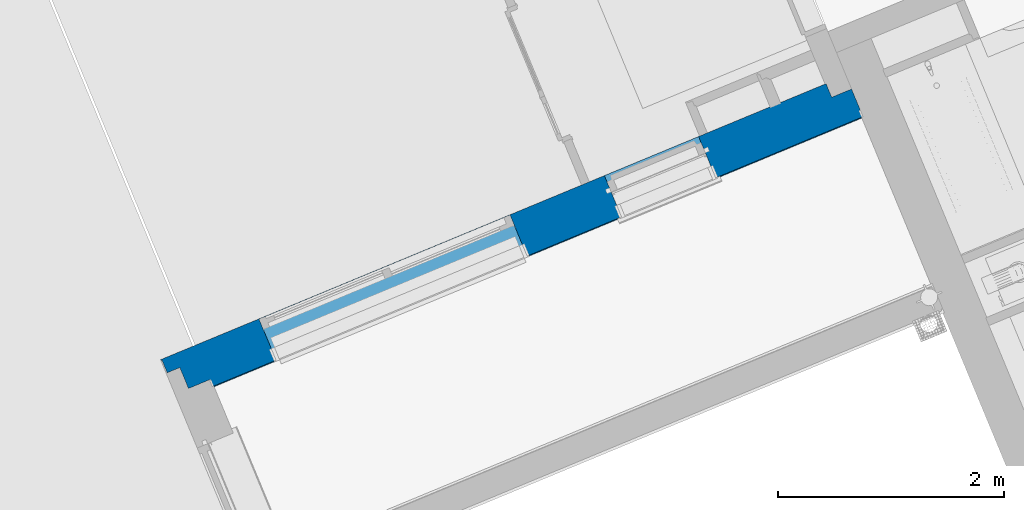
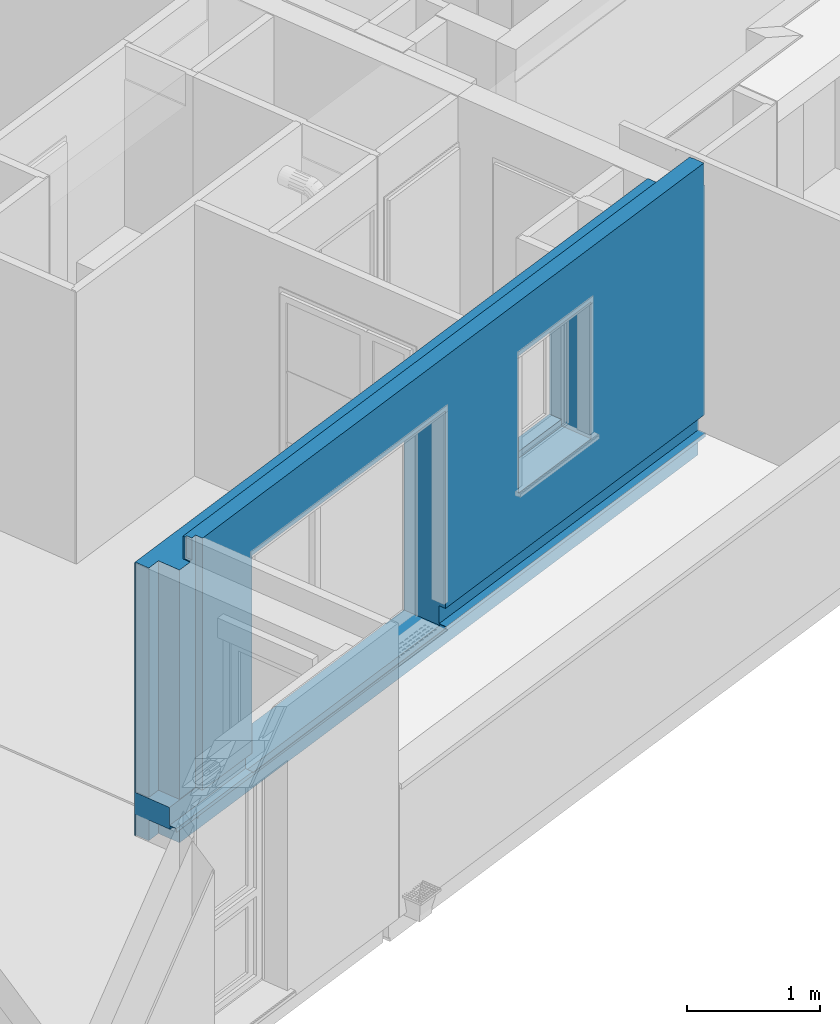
# One storey, part 34 of 91: 1 wall, 2 openings.
"""IFC2X3 building model written with IfcOpenShell, lengths in metres."""

from ifc_helpers import new_model, entity, si_unit, converted_unit, derived_unit, money_unit, direction, frame, origin_with_axes, place, context, subcontext, project, spatial, faceted_brep, material, material_list, type_object, element, save


model = new_model("IFC2X3")

# Units and contexts
model_context = context("Model", 3, precision=1e-05, world=origin_with_axes(), true_north=direction((0.0, 1.0)))
body_context = subcontext(model_context, "Body", "Model", "MODEL_VIEW")
ifc_project = project(units=[si_unit("LENGTHUNIT", "METRE"), si_unit("AREAUNIT", "SQUARE_METRE"), si_unit("VOLUMEUNIT", "CUBIC_METRE"), converted_unit("PLANEANGLEUNIT", "DEGREE", entity("IfcPlaneAngleMeasure", 0.0174532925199), si_unit("PLANEANGLEUNIT", "RADIAN"), dimensions=[0, 0, 0, 0, 0, 0, 0]), si_unit("SOLIDANGLEUNIT", "STERADIAN"), money_unit("EUR"), converted_unit("TIMEUNIT", "Year", entity("IfcTimeMeasure", 31556926.0), si_unit("TIMEUNIT", "SECOND"), dimensions=[0, 0, 1, 0, 0, 0, 0]), si_unit("MASSUNIT", "GRAM", prefix="KILO"), si_unit("THERMODYNAMICTEMPERATUREUNIT", "DEGREE_CELSIUS"), si_unit("LUMINOUSINTENSITYUNIT", "LUMEN"), si_unit("ENERGYUNIT", "JOULE", prefix="MEGA"), derived_unit("THERMALCONDUCTANCEUNIT", [(si_unit("POWERUNIT", "WATT"), 1), (si_unit("LENGTHUNIT", "METRE"), -1), (si_unit("THERMODYNAMICTEMPERATUREUNIT", "KELVIN"), -1)]), derived_unit("SPECIFICHEATCAPACITYUNIT", [(si_unit("ENERGYUNIT", "JOULE"), 1), (si_unit("MASSUNIT", "GRAM", prefix="KILO"), -1), (si_unit("THERMODYNAMICTEMPERATUREUNIT", "KELVIN"), -1)]), derived_unit("MASSDENSITYUNIT", [(si_unit("MASSUNIT", "GRAM", prefix="KILO"), 1), (si_unit("VOLUMEUNIT", "CUBIC_METRE"), -1)])], contexts=[model_context])

# Site, building, storey
site_placement = place(None, origin_with_axes())
site = spatial("IfcSite", under=ifc_project, at=site_placement, Name="Site", CompositionType="ELEMENT")
building_placement = place(site_placement, origin_with_axes())
building = spatial("IfcBuilding", under=site, at=building_placement, Name="Bâtiment", CompositionType="ELEMENT")
storey_placement = place(building_placement, frame((0.0, 0.0, 5.44), z_axis=(0.0, 0.0, 1.0), x_axis=(1.0, 0.0, 0.0)))
storey = spatial("IfcBuildingStorey", under=building, at=storey_placement, Name="R+2", CompositionType="ELEMENT", Elevation=5.44)

# Wall, openings
ifc_material_1 = material(Name="Finition int - Plaque de plâtre")
ifc_material_2 = material(Name="Isolation - Polystyrène extrudé")
ifc_material_3 = material(Name="Bloc ELITHERM")
ifc_material_4 = material(Name="Isolation - Polystyrène expansé")
ifc_material_5 = material(Name="Mortier")
ifc_material_6 = material(Name="Béton cellulaire")
ifc_material_7 = material(Name="Etanchéité - Bitume")
ifc_material_8 = material(Name="Bois - Lattage")
ifc_material_9 = material(Name="Finition ext - Bardage bois")
ifc_material_10 = material(Name="Métal - Aluminium")
ifc_material_list = material_list([ifc_material_1, ifc_material_2, ifc_material_3, ifc_material_4, ifc_material_5, ifc_material_6, ifc_material_7, ifc_material_8, ifc_material_9, ifc_material_10])
wall_type = type_object("IfcWallType", Name="Mur ALKERN + planelle 21 BARDAGE TERRASSE 403 x 2720", PredefinedType="USERDEFINED")
wall_placement = place(storey_placement, frame((-28.0473326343, -25.3707038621, 0.0), z_axis=(0.0, 0.0, 1.0), x_axis=(0.92370167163, 0.383112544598, 0.0)))
wall = element("IfcWall", 1, at=wall_placement, inside=storey, type_object=wall_type, material=ifc_material_list, Name="Mue bloc ALKERN isolé", ObjectType="SOLIDWALL", context=body_context, shape_type="Brep", body=[
    faceted_brep([(6.01808839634, 0.384999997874, 2.51000000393), (-0.344999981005, 0.384999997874, 2.51000000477), (-0.344999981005, 0.384999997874, 0.0), (6.01808839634, 0.384999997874, 0.0), (0.595490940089, 0.384999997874, 2.22), (0.595490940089, 0.384999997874, 2.4), (2.99549094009, 0.384999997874, 2.4), (2.99549094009, 0.384999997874, 2.22), (2.99549094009, 0.384999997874, 0.22), (0.595490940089, 0.384999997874, 0.22), (3.89859333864, 0.384999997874, 2.22), (3.89859333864, 0.384999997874, 2.4), (4.79859333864, 0.384999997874, 2.4), (4.79859333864, 0.384999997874, 2.22), (4.79859333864, 0.384999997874, 1.02), (3.89859333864, 0.384999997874, 1.02), (6.01808839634, 0.395000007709, 2.51000000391), (-0.344999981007, 0.395000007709, 2.51000000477), (-0.344999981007, 0.395000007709, 0.0), (6.01808839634, 0.395000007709, 0.0), (0.595490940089, 0.395000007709, 2.22), (0.595490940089, 0.395000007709, 2.4), (2.99549094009, 0.395000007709, 2.4), (2.99549094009, 0.395000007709, 2.22), (2.99549094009, 0.395000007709, 0.22), (0.595490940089, 0.395000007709, 0.22), (3.89859333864, 0.395000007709, 2.22), (3.89859333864, 0.395000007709, 2.4), (4.79859333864, 0.395000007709, 2.4), (4.79859333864, 0.395000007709, 2.22), (4.79859333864, 0.395000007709, 1.02), (3.89859333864, 0.395000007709, 1.02)], [[[0, 1, 2, 3], [4, 5, 6, 7, 8, 9], [10, 11, 12, 13, 14, 15]], [[1, 0, 16, 17]], [[17, 18, 2, 1]], [[18, 19, 3, 2]], [[19, 16, 0, 3]], [[20, 21, 5, 4]], [[21, 22, 6, 5]], [[22, 23, 7, 6]], [[24, 8, 7, 23]], [[25, 9, 8, 24]], [[9, 25, 20, 4]], [[11, 10, 26, 27]], [[12, 11, 27, 28]], [[13, 12, 28, 29]], [[13, 29, 30, 14]], [[14, 30, 31, 15]], [[26, 10, 15, 31]], [[17, 16, 19, 18], [21, 20, 25, 24, 23, 22], [27, 26, 31, 30, 29, 28]]]),
    faceted_brep([(4.79859333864, 0.278311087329, 1.02), (4.79859333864, 0.264999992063, 1.02), (4.79859333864, 0.264999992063, 2.22), (4.79859333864, 0.384999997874, 2.22), (4.79859333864, 0.384999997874, 1.02), (4.79859333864, 0.264999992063, 0.96), (4.79859333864, 0.278311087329, 0.96), (-0.335000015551, 0.264999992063, 0.0), (6.0180883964, 0.264999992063, 0.0), (6.0180883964, 0.264999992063, 2.51000000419), (-0.335000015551, 0.264999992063, 2.51), (-0.335000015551, 0.264999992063, 0.399999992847), (-0.344999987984, 0.264999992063, 0.399999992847), (-0.344999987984, 0.264999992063, 0.2), (-0.335000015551, 0.264999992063, 0.2), (2.99549094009, 0.264999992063, 2.22), (2.99549094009, 0.264999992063, 0.22), (0.595490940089, 0.264999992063, 0.22), (0.595490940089, 0.264999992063, 2.22), (0.595490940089, 0.264999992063, 2.4), (2.99549094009, 0.264999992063, 2.4), (3.89859333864, 0.264999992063, 0.96), (3.89859333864, 0.264999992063, 1.02), (3.89859333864, 0.264999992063, 2.22), (3.89859333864, 0.264999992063, 2.4), (4.79859333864, 0.264999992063, 2.4), (4.79859333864, 0.384999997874, 2.4), (-0.344999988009, 0.384999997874, 0.399999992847), (-0.335000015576, 0.384999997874, 0.399999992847), (-0.335000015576, 0.384999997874, 2.51), (6.01808839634, 0.384999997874, 2.51000000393), (6.01808839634, 0.384999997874, 0.0), (-0.335000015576, 0.384999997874, 0.0), (-0.335000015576, 0.384999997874, 0.2), (-0.344999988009, 0.384999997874, 0.2), (2.99549094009, 0.384999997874, 0.22), (2.99549094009, 0.384999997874, 2.22), (2.99549094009, 0.384999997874, 2.4), (0.595490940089, 0.384999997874, 2.4), (0.595490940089, 0.384999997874, 2.22), (0.595490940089, 0.384999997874, 0.22), (3.89859333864, 0.384999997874, 2.4), (3.89859333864, 0.384999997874, 2.22), (3.89859333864, 0.384999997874, 1.02), (3.89859333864, 0.278311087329, 1.02), (3.89859333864, 0.278311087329, 0.96), (2.99549094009, 0.292311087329, 2.22), (2.99549094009, 0.292311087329, 0.22), (0.595490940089, 0.292311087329, 0.22), (0.595490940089, 0.292311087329, 2.22)], [[[0, 1, 2, 3, 4]], [[5, 1, 0, 6]], [[7, 8, 9, 10, 11, 12, 13, 14], [15, 16, 17, 18, 19, 20], [21, 22, 23, 24, 25, 2, 1, 5]], [[25, 26, 3, 2]], [[27, 28, 29, 30, 31, 32, 33, 34], [35, 36, 37, 38, 39, 40], [4, 3, 26, 41, 42, 43]], [[44, 0, 4, 43]], [[0, 44, 45, 6]], [[21, 5, 6, 45]], [[8, 7, 32, 31]], [[9, 8, 31, 30]], [[30, 29, 10, 9]], [[10, 29, 28, 11]], [[11, 28, 27, 12]], [[27, 34, 13, 12]], [[13, 34, 33, 14]], [[33, 32, 7, 14]], [[16, 15, 46, 47]], [[17, 16, 47, 48]], [[48, 49, 18, 17]], [[18, 49, 39, 38, 19]], [[37, 20, 19, 38]], [[20, 37, 36, 46, 15]], [[44, 22, 21, 45]], [[22, 44, 43, 42, 23]], [[23, 42, 41, 24]], [[24, 41, 26, 25]], [[47, 46, 36, 35]], [[40, 39, 49, 48]], [[48, 47, 35, 40]]]),
    faceted_brep([(4.79859333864, 0.237311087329, 1.02), (4.79859333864, 0.0650000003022, 1.02), (4.79859333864, 0.0649999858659, 2.22), (4.79859333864, 0.207311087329, 2.22), (4.79859333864, 0.237311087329, 2.22), (4.79859333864, 0.065000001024, 0.96), (4.79859333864, 0.264999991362, 1.02), (4.79859333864, 0.264999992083, 0.96), (6.20808840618, 0.0650000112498, 0.109999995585), (6.20808840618, 0.0649999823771, 2.51), (-0.215000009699, 0.0649999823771, 2.51), (-0.215000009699, 0.065000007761, 0.399999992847), (-0.344999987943, 0.065000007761, 0.399999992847), (-0.344999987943, 0.0650000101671, 0.2), (-0.215000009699, 0.065000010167, 0.2), (-0.215000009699, 0.0650000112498, 0.109999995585), (0.595490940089, 0.0649999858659, 2.22), (2.99549094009, 0.0649999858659, 2.22), (2.99549094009, 0.0650000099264, 0.22), (0.595490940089, 0.0650000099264, 0.22), (3.89859333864, 0.065000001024, 0.96), (3.89859333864, 0.0650000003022, 1.02), (3.89859333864, 0.0649999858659, 2.22), (3.89859333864, 0.207311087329, 2.22), (4.79859333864, 0.207311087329, 2.4), (4.79859333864, 0.264999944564, 2.4), (4.79859333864, 0.264999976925, 2.22), (-0.344999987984, 0.264999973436, 0.2), (-0.344999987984, 0.264999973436, 0.399999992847), (-0.21500000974, 0.26499999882, 0.399999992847), (-0.21500000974, 0.264999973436, 2.51), (6.20808840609, 0.264999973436, 2.51), (6.20808840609, 0.264999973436, 0.0), (-0.21500000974, 0.264999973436, 0.0), (-0.21500000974, 0.265000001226, 0.2), (0.595490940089, 0.26499997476, 2.4), (0.595490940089, 0.264999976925, 2.22), (0.595490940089, 0.265000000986, 0.22), (2.99549094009, 0.265000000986, 0.22), (2.99549094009, 0.264999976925, 2.22), (2.99549094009, 0.26499997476, 2.4), (3.89859333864, 0.264999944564, 2.4), (3.89859333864, 0.264999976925, 2.22), (3.89859333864, 0.264999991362, 1.02), (3.89859333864, 0.264999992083, 0.96), (6.20808840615, 0.133000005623, 2.51), (6.20808840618, 0.0649999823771, 0.0), (-0.215000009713, 0.133000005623, 2.51), (-0.215000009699, 0.0649999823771, 0.0), (0.595490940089, 0.262311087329, 2.22), (2.99549094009, 0.262311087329, 2.22), (3.89859333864, 0.237311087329, 1.02), (3.89859333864, 0.237311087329, 2.22), (3.89859333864, 0.207311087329, 2.4), (0.595490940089, 0.262311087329, 2.4), (2.99549094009, 0.262311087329, 2.4)], [[[0, 1, 2, 3, 4]], [[5, 1, 0, 6, 7]], [[8, 9, 10, 11, 12, 13, 14, 15], [16, 17, 18, 19], [20, 21, 22, 2, 1, 5]], [[3, 2, 22, 23]], [[24, 25, 26, 4, 3]], [[6, 0, 4, 26]], [[27, 28, 29, 30, 31, 32, 33, 34], [35, 36, 37, 38, 39, 40], [7, 6, 26, 25, 41, 42, 43, 44]], [[20, 5, 7, 44]], [[32, 31, 45, 9, 8, 46]], [[10, 9, 45, 47]], [[10, 47, 30, 29, 11]], [[29, 28, 12, 11]], [[28, 27, 13, 12]], [[14, 13, 27, 34]], [[14, 34, 33, 48, 15]], [[48, 46, 8, 15]], [[49, 50, 17, 16]], [[18, 17, 50, 39, 38]], [[18, 38, 37, 19]], [[19, 37, 36, 49, 16]], [[51, 21, 20, 44, 43]], [[21, 51, 52, 23, 22]], [[23, 53, 24, 3]], [[25, 24, 53, 41]], [[47, 45, 31, 30]], [[33, 32, 46, 48]], [[49, 36, 35, 54]], [[39, 50, 55, 40]], [[35, 40, 55, 54]], [[42, 41, 53, 23, 52]], [[51, 43, 42, 52]], [[50, 49, 54, 55]]]),
    faceted_brep([(-0.083000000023, 0.113000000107, 2.51999998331), (6.19308838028, 0.113000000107, 2.52), (6.19308838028, 0.113000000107, 2.72), (-0.083000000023, 0.113000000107, 2.72), (-0.0830000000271, 0.133000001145, 2.51999998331), (6.19308838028, 0.133000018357, 2.52), (6.19308838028, 0.133000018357, 2.72), (-0.0830000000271, 0.133000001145, 2.72)], [[[0, 1, 2, 3]], [[4, 5, 1, 0]], [[5, 6, 2, 1]], [[3, 2, 6, 7]], [[7, 4, 0, 3]], [[7, 6, 5, 4]]]),
    faceted_brep([(6.19808839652, 0.13300001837, 2.51999998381), (-0.0830000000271, 0.133000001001, 2.51999998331), (-0.0830000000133, 0.065, 2.51999998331), (6.19808839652, 0.065, 2.52), (6.19808839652, 0.13300001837, 2.51000000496), (-0.0830000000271, 0.133000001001, 2.51000000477), (-0.0830000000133, 0.065, 2.51000000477), (6.19808839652, 0.065, 2.51000000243)], [[[0, 1, 2, 3]], [[4, 5, 1, 0]], [[5, 6, 2, 1]], [[3, 2, 6, 7]], [[4, 0, 3, 7]], [[7, 6, 5, 4]]]),
    faceted_brep([(-0.0630000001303, 0.112999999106, 2.72), (-0.0630000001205, 0.065, 2.72), (6.19808839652, 0.065, 2.72000000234), (6.19808839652, 0.112999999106, 2.72000000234), (-0.0630000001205, 0.065, 2.51999999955), (-0.0630000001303, 0.112999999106, 2.51999999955), (6.19808839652, 0.065, 2.51999999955), (6.19808839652, 0.112999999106, 2.51999999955)], [[[0, 1, 2, 3]], [[4, 1, 0, 5]], [[1, 4, 6, 2]], [[7, 3, 2, 6]], [[5, 0, 3, 7]], [[4, 5, 7, 6]]]),
    faceted_brep([(2.99549094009, 0.0649999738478, 0.230000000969), (2.99549094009, 0.0550000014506, 0.230000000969), (6.20808840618, 0.0550000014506, 0.230000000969), (6.20808840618, 0.0649999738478, 0.230000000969), (2.99549094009, 0.0550000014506, 0.22), (2.99549094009, 0.0649999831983, 0.22), (0.595490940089, 0.0550000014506, 0.22), (0.595490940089, 0.0550000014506, 0.230000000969), (-0.344999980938, 0.0550000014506, 0.230000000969), (-0.344999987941, 0.0550000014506, 0.2), (0.0, 0.0550000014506, 0.2), (0.0, 0.0550000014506, 0.109999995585), (6.19308838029, 0.0550000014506, 0.109999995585), (6.19308838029, 0.0550000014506, 0.2), (6.20808838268, 0.0550000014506, 0.2), (6.20808838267, 0.0649999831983, 0.2), (6.19308838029, 0.0649999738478, 0.2), (6.19308838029, 0.0650000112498, 0.109999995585), (0.0, 0.0650000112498, 0.109999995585), (0.0, 0.0649999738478, 0.2), (-0.344999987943, 0.0649999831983, 0.2), (-0.34499998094, 0.0649999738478, 0.230000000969), (0.595490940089, 0.0649999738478, 0.230000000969), (0.595490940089, 0.0649999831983, 0.22)], [[[0, 1, 2, 3]], [[4, 1, 0, 5]], [[6, 7, 8, 9, 10, 11, 12, 13, 14, 2, 1, 4]], [[14, 15, 3, 2]], [[5, 0, 3, 15, 16, 17, 18, 19, 20, 21, 22, 23]], [[6, 4, 5, 23]], [[22, 7, 6, 23]], [[7, 22, 21, 8]], [[20, 9, 8, 21]], [[19, 10, 9, 20]], [[11, 10, 19, 18]], [[17, 12, 11, 18]], [[13, 12, 17, 16]], [[15, 14, 13, 16]]]),
    faceted_brep([(4.79859333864, 0.0649999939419, 1.02), (4.79859333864, 0.0250000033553, 1.02), (4.79859333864, 0.0250000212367, 2.22), (4.79859333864, 0.0650000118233, 2.22), (4.79859333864, 0.0249999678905, 0.96), (4.79859333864, 0.0649999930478, 0.96), (6.2080884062, 0.0249999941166, 0.399999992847), (6.2080884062, 0.0250000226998, 2.51), (6.19808839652, 0.0250000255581, 2.51000000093), (6.19808839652, 0.0249999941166, 2.72000000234), (-0.0150000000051, 0.0249999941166, 2.72), (-0.0150000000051, 0.0249999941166, 0.399999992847), (0.595490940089, 0.0249999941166, 0.399999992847), (0.595490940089, 0.024999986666, 2.22), (2.99549094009, 0.024999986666, 2.22), (2.99549094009, 0.0249999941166, 0.399999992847), (3.89859333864, 0.0249999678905, 0.96), (3.89859333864, 0.0250000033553, 1.02), (3.89859333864, 0.0250000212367, 2.22), (3.89859333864, 0.0650000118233, 2.22), (6.19808839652, 0.0650000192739, 2.72000000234), (6.19808839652, 0.0650000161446, 2.51000000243), (6.20808840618, 0.0650000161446, 2.51), (6.20808840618, 0.0649999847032, 0.399999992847), (2.99549094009, 0.0649999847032, 0.399999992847), (2.99549094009, 0.0650000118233, 2.22), (0.595490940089, 0.0650000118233, 2.22), (0.595490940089, 0.0649999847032, 0.399999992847), (-0.0150000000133, 0.0649999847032, 0.399999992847), (-0.0150000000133, 0.0650000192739, 2.72), (3.89859333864, 0.0649999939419, 1.02), (3.89859333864, 0.0649999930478, 0.96), (6.20808840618, 0.0600000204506, 0.399999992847), (-0.0150000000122, 0.0600000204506, 0.399999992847), (0.595490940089, 0.0600000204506, 0.399999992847), (2.99549094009, 0.0600000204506, 0.399999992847)], [[[0, 1, 2, 3]], [[4, 1, 0, 5]], [[6, 7, 8, 9, 10, 11, 12, 13, 14, 15], [16, 17, 18, 2, 1, 4]], [[18, 19, 3, 2]], [[20, 21, 22, 23, 24, 25, 26, 27, 28, 29], [5, 0, 3, 19, 30, 31]], [[16, 4, 5, 31]], [[23, 22, 7, 6, 32]], [[22, 21, 8, 7]], [[9, 8, 21, 20]], [[9, 20, 29, 10]], [[10, 29, 28, 33, 11]], [[11, 33, 34, 12]], [[26, 13, 12, 34, 27]], [[26, 25, 14, 13]], [[35, 15, 14, 25, 24]], [[32, 6, 15, 35]], [[30, 17, 16, 31]], [[17, 30, 19, 18]], [[23, 32, 35, 24]], [[33, 28, 27, 34]]]),
    faceted_brep([(4.79859333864, 0.025, 1.02), (4.79859333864, 0.0, 1.02), (4.79859333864, 0.0, 2.22), (4.79859333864, 0.025, 2.22), (4.79859333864, 1.93680804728e-08, 0.96), (4.79859333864, 0.025, 0.96), (6.20808840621, 0.0, 0.4), (6.20808840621, 1.93680822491e-08, 2.51), (6.19808839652, 1.93680804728e-08, 2.51), (6.19808839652, 1.93680804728e-08, 2.72000000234), (-0.015, 1.25367272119e-09, 2.72), (-0.015, 0.0, 0.399999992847), (0.595490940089, 0.0, 0.399999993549), (0.595490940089, 1.93680822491e-08, 2.22), (2.99549094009, 1.93680786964e-08, 2.22), (2.99549094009, 0.0, 0.399999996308), (3.89859333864, 1.93680822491e-08, 0.96), (3.89859333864, 0.0, 1.02), (3.89859333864, 0.0, 2.22), (3.89859333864, 0.025, 2.22), (6.19808839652, 0.025, 2.72000000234), (6.19808839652, 0.025, 2.51000000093), (6.2080884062, 0.025, 2.51), (6.2080884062, 0.025, 0.4), (2.99549094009, 0.025, 0.399999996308), (2.99549094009, 0.025, 2.22), (0.595490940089, 0.025, 2.22), (0.595490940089, 0.025, 0.399999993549), (-0.0150000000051, 0.025, 0.399999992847), (-0.0150000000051, 0.025, 2.72), (3.89859333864, 0.025, 1.02), (3.89859333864, 0.025, 0.96)], [[[0, 1, 2, 3]], [[4, 1, 0, 5]], [[6, 7, 8, 9, 10, 11, 12, 13, 14, 15], [16, 17, 18, 2, 1, 4]], [[18, 19, 3, 2]], [[20, 21, 22, 23, 24, 25, 26, 27, 28, 29], [5, 0, 3, 19, 30, 31]], [[16, 4, 5, 31]], [[7, 6, 23, 22]], [[22, 21, 8, 7]], [[9, 8, 21, 20]], [[9, 20, 29, 10]], [[28, 11, 10, 29]], [[11, 28, 27, 12]], [[27, 26, 13, 12]], [[26, 25, 14, 13]], [[25, 24, 15, 14]], [[23, 6, 15, 24]], [[30, 17, 16, 31]], [[17, 30, 19, 18]]]),
    faceted_brep([(2.99549094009, 0.06, 0.235), (2.99549094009, -0.00768891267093, 0.235), (6.20808840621, -0.00768891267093, 0.235), (6.20808840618, 0.06, 0.235), (2.99549094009, -0.00768891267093, 0.22), (2.99549094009, 0.06, 0.4), (2.99549094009, 0.065, 0.4), (2.99549094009, 0.065, 0.23), (2.99549094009, 0.0550000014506, 0.230000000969), (2.99549094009, -0.00268891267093, 0.23), (2.99549094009, -0.00268891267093, 0.22), (0.595490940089, -0.00768891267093, 0.22), (0.595490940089, -0.00768891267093, 0.235), (-0.344999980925, -0.00768891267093, 0.235), (-0.344999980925, -0.00768891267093, 0.2), (6.20808840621, -0.00768891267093, 0.2), (6.20808840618, 0.065, 0.23), (6.20808840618, 0.065, 0.4), (6.20808840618, 0.06, 0.4), (6.20808840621, -0.00268891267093, 0.2), (6.20808840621, -0.00268891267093, 0.23), (6.20808840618, 0.0550000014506, 0.230000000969), (-0.344999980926, -0.00268891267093, 0.2), (-0.344999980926, -0.00268891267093, 0.23), (0.595490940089, -0.00268891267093, 0.23), (0.595490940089, -0.00268891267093, 0.22), (0.595490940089, 0.06, 0.235), (0.595490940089, 0.0550000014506, 0.230000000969), (0.595490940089, 0.065, 0.23), (0.595490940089, 0.065, 0.4), (0.595490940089, 0.06, 0.4), (-0.344999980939, 0.06, 0.235), (-0.344999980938, 0.0550000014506, 0.230000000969), (-0.344999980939, 0.06, 0.4), (-0.34499998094, 0.065, 0.4), (-0.34499998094, 0.065, 0.23)], [[[0, 1, 2, 3]], [[4, 1, 0, 5, 6, 7, 8, 9, 10]], [[11, 12, 13, 14, 15, 2, 1, 4]], [[16, 17, 18, 3, 2, 15, 19, 20, 21]], [[5, 0, 3, 18]], [[6, 5, 18, 17]], [[7, 6, 17, 16]], [[8, 7, 16, 21]], [[9, 8, 21, 20]], [[10, 9, 20, 19, 22, 23, 24, 25]], [[11, 4, 10, 25]], [[26, 12, 11, 25, 24, 27, 28, 29, 30]], [[12, 26, 31, 13]], [[32, 23, 22, 14, 13, 31, 33, 34, 35]], [[15, 14, 22, 19]], [[27, 24, 23, 32]], [[28, 27, 32, 35]], [[29, 28, 35, 34]], [[30, 29, 34, 33]], [[26, 30, 33, 31]]]),
])
opening_1_placement = place(wall_placement, frame((1.79549094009, 0.0, 0.22), z_axis=(0.0, 0.0, 1.0), x_axis=(1.0, 0.0, 0.0)))
element("IfcOpeningElement", 2, at=opening_1_placement, cuts=wall, Name="MEN 88", context=body_context, shape_type="Brep", body=[
    faceted_brep([(1.2, 0.292311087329, 0.0), (-1.2, 0.292311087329, 0.0), (-1.2, 0.995000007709, 0.0), (1.2, 0.995000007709, 0.0), (1.2, 0.292311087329, 2.0), (-1.2, 0.292311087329, 2.0), (-1.2, 0.995000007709, 2.0), (1.2, 0.995000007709, 2.0)], [[[0, 1, 2, 3]], [[0, 4, 5, 1]], [[1, 5, 6, 2]], [[3, 2, 6, 7]], [[4, 0, 3, 7]], [[5, 4, 7, 6]]]),
    faceted_brep([(1.2, 0.292311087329, 0.0), (1.2, 0.292311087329, 2.0), (1.2, -0.410377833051, 2.0), (1.2, -0.410377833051, 0.0), (-1.2, 0.292311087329, 0.0), (-1.2, 0.292311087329, 2.0), (-1.2, -0.410377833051, 2.0), (-1.2, -0.410377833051, 0.0)], [[[0, 1, 2, 3]], [[0, 4, 5, 1]], [[1, 5, 6, 2]], [[3, 2, 6, 7]], [[4, 0, 3, 7]], [[5, 4, 7, 6]]]),
    faceted_brep([(1.2, 0.292311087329, 0.0), (1.2, 0.292311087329, 2.0), (1.2, -0.410377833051, 2.0), (1.2, -0.410377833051, 0.0), (-1.2, 0.292311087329, 0.0), (-1.2, 0.292311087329, 2.0), (-1.2, -0.410377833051, 2.0), (-1.2, -0.410377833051, 0.0)], [[[0, 1, 2, 3]], [[0, 4, 5, 1]], [[1, 5, 6, 2]], [[3, 2, 6, 7]], [[4, 0, 3, 7]], [[5, 4, 7, 6]]]),
    faceted_brep([(1.2, 0.262311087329, 2.0), (-1.2, 0.262311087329, 2.0), (-1.2, 0.965000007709, 2.0), (1.2, 0.965000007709, 2.0), (1.2, 0.262311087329, 2.18), (-1.2, 0.262311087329, 2.18), (-1.2, 0.965000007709, 2.18), (1.2, 0.965000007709, 2.18)], [[[0, 1, 2, 3]], [[0, 4, 5, 1]], [[1, 5, 6, 2]], [[3, 2, 6, 7]], [[4, 0, 3, 7]], [[5, 4, 7, 6]]]),
])
opening_2_placement = place(wall_placement, frame((4.34859333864, 0.0, 1.02), z_axis=(0.0, 0.0, 1.0), x_axis=(1.0, 0.0, 0.0)))
element("IfcOpeningElement", 3, at=opening_2_placement, cuts=wall, Name="MEN 89", context=body_context, shape_type="Brep", body=[
    faceted_brep([(-0.45, 0.885000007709, 0.0), (0.45, 0.885000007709, 0.0), (0.45, 0.237311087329, 0.0), (-0.45, 0.237311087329, 0.0), (-0.45, 0.885000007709, 1.2), (0.45, 0.885000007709, 1.2), (0.45, 0.237311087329, 1.2), (-0.45, 0.237311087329, 1.2)], [[[0, 1, 2, 3]], [[0, 4, 5, 1]], [[1, 5, 6, 2]], [[3, 2, 6, 7]], [[4, 0, 3, 7]], [[5, 4, 7, 6]]]),
    faceted_brep([(-0.45, -0.410377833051, 0.0), (-0.45, -0.410377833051, 1.2), (-0.45, 0.237311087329, 1.2), (-0.45, 0.237311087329, 0.0), (0.45, -0.410377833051, 0.0), (0.45, -0.410377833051, 1.2), (0.45, 0.237311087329, 1.2), (0.45, 0.237311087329, 0.0)], [[[0, 1, 2, 3]], [[0, 4, 5, 1]], [[1, 5, 6, 2]], [[3, 2, 6, 7]], [[4, 0, 3, 7]], [[5, 4, 7, 6]]]),
    faceted_brep([(-0.45, -0.410377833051, 0.0), (-0.45, -0.410377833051, 1.2), (-0.45, 0.237311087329, 1.2), (-0.45, 0.237311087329, 0.0), (0.45, -0.410377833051, 0.0), (0.45, -0.410377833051, 1.2), (0.45, 0.237311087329, 1.2), (0.45, 0.237311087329, 0.0)], [[[0, 1, 2, 3]], [[0, 4, 5, 1]], [[1, 5, 6, 2]], [[3, 2, 6, 7]], [[4, 0, 3, 7]], [[5, 4, 7, 6]]]),
    faceted_brep([(-0.45, 0.855000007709, 1.2), (0.45, 0.855000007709, 1.2), (0.45, 0.207311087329, 1.2), (-0.45, 0.207311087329, 1.2), (-0.45, 0.855000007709, 1.38), (0.45, 0.855000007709, 1.38), (0.45, 0.207311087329, 1.38), (-0.45, 0.207311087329, 1.38)], [[[0, 1, 2, 3]], [[0, 4, 5, 1]], [[1, 5, 6, 2]], [[3, 2, 6, 7]], [[4, 0, 3, 7]], [[5, 4, 7, 6]]]),
    faceted_brep([(-0.45, -0.369377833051, 0.0), (0.45, -0.369377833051, 0.0), (0.45, 0.278311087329, 0.0), (-0.45, 0.278311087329, 0.0), (-0.45, -0.369377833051, -0.06), (0.45, -0.369377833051, -0.06), (0.45, 0.278311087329, -0.06), (-0.45, 0.278311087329, -0.06)], [[[0, 1, 2, 3]], [[0, 4, 5, 1]], [[1, 5, 6, 2]], [[3, 2, 6, 7]], [[4, 0, 3, 7]], [[5, 4, 7, 6]]]),
])

save(model, "model.ifc")
